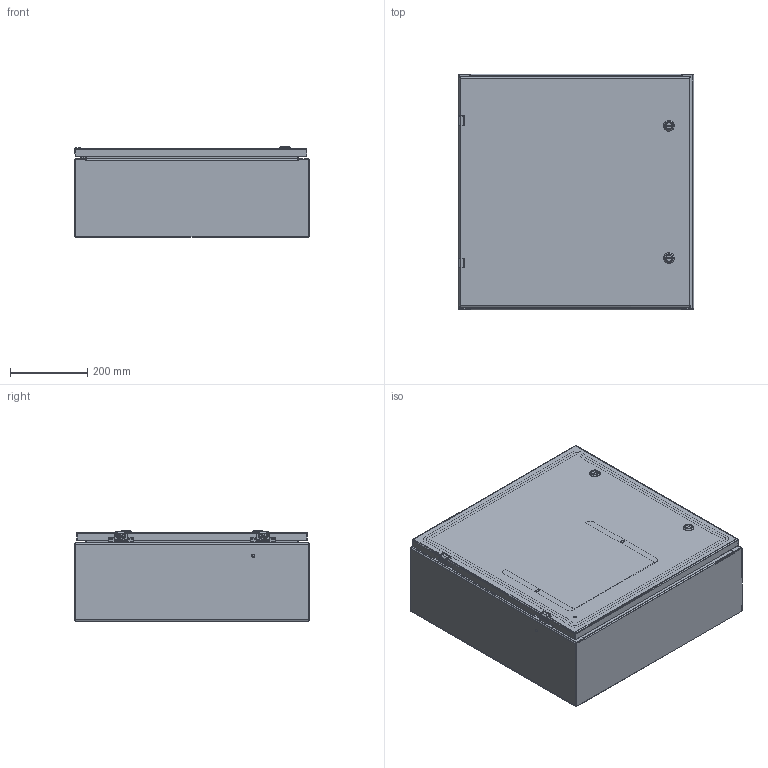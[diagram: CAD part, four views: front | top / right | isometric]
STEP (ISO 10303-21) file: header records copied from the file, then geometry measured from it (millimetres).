
FILE_DESCRIPTION((''),'2;1');
FILE_NAME('MODEL-306_ASM','2023-02-27T09:30:57',('mikek'),('SAGINAW CONTROL & ENGINEERING'),'CREO PARAMETRIC BY PTC INC, 2021284','CREO PARAMETRIC BY PTC INC, 2021284','');
FILE_SCHEMA(('AUTOMOTIVE_DESIGN { 1 0 10303 214 1 1 1 1 }'));
Length unit declared in the file: inch
Products named in the file (28): MODEL-306-BDY; MODEL-306-TP; MODEL-306-BTM; MODEL-306-DR; 100837; 100882; 111267; 100794_SHAFT; 100794_INSERT; 100794_CAM; 100794_NUT; 100794_SCREW; 100794_ASM; MODEL-306-DOOR-GASKET; 126392; 126392_ASM; 126395; 102483; 101226; 101389; 102140; MODEL-306-DOOR-ASSY_ASM; 101653; 122191; SUBPANEL; 100904; SUBPANEL-SUBASSEMBLY_ASM; MODEL-306_ASM
Assembly tree (48 placements, depth 4):
  MODEL-306_ASM
    MODEL-306-BDY
    MODEL-306-TP
    MODEL-306-BTM
    MODEL-306-DOOR-ASSY_ASM
      MODEL-306-DR
      100837  x3
      100882  x2
      111267
      100794_ASM  x2
        100794_SHAFT
        100794_INSERT
        100794_CAM
        100794_NUT
        100794_SCREW
      MODEL-306-DOOR-GASKET
      126392_ASM  x2
        126392
      126395  x2
      102483  x6
      101226  x2
      101389  x2
      102140  x2
    100837
    101653  x4
    122191
    SUBPANEL-SUBASSEMBLY_ASM
      SUBPANEL
      100904  x4
Bounding box: 609.6 x 609.6 x 234.33 mm (x, y, z)
Volume: 4080771.7 mm3; surface area: 3720031.2 mm2
Topology: 49 solids, 49 shells, 3027 faces, 7690 edges, 4824 vertices
Faces by surface type: plane 1352, cylinder 825, bspline 476, torus 214, cone 104, sphere 56
Entity records: 84526 total; most frequent: CARTESIAN_POINT 24536, ORIENTED_EDGE 8706, DIRECTION 8098, PRESENTATION_STYLE_ASSIGNMENT 4550, EDGE_CURVE 4353, STYLED_ITEM 4275, CURVE_STYLE 4191, AXIS2_PLACEMENT_3D 2929
